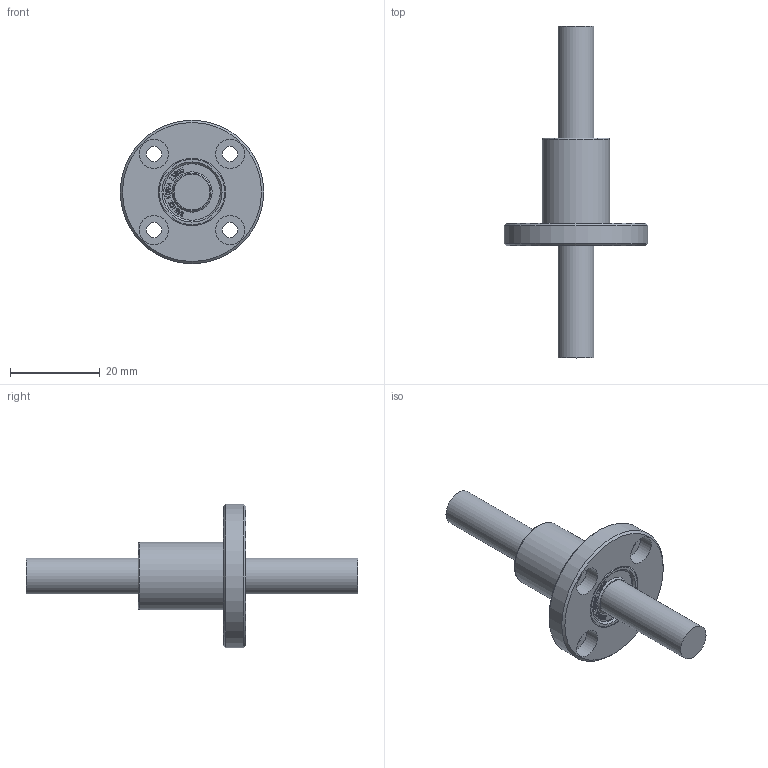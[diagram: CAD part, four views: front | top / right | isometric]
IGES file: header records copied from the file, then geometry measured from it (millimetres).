
Global section: file name: No Iges File Name specified; native system: Autodesk Inventor 2012; preprocessor: AutoDesk Inventor Iges Exporter R2012; author: user2; date: 20130206.160120; units: millimetre
Bounding box: 32 x 74 x 32 mm (x, y, z)
Volume: 9263.4 mm3; surface area: 4561.2 mm2
Topology: 1 solids, 1 shells, 823 faces, 2291 edges, 1526 vertices
Faces by surface type: bspline 580, plane 220, revolution 13, cone 4, cylinder 4, torus 2
Full cylindrical faces by diameter (mm): 8 x2, 15 x1, 32 x1
